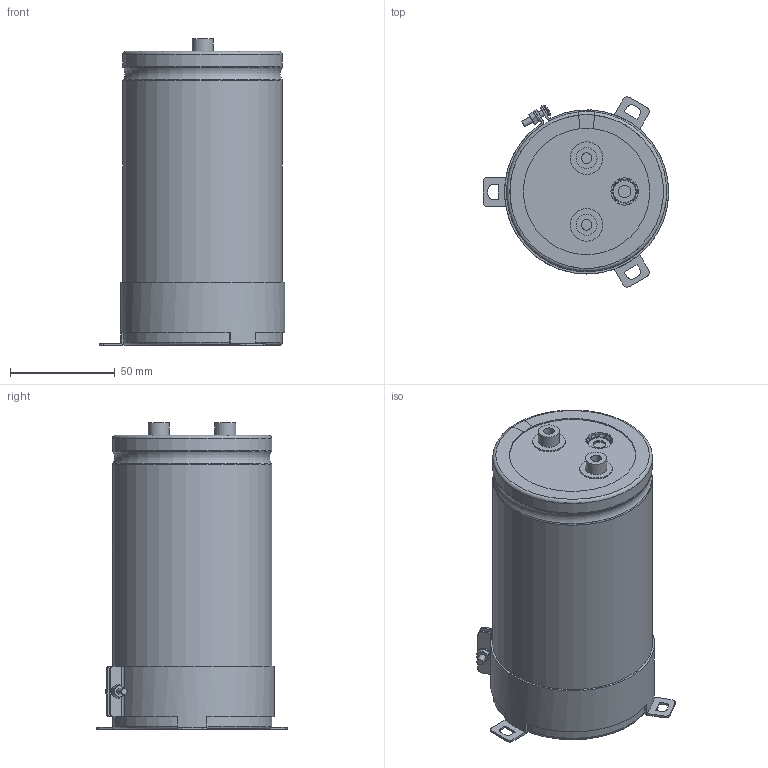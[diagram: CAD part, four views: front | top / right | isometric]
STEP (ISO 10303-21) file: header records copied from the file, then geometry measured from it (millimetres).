
FILE_DESCRIPTION(/* description */ (''),/* implementation_level */ '2;1');
FILE_NAME(/* name */ '76.2x140_Screw.stp',/* time_stamp */ '2017-09-17T13:30:40+09:00',/* author */ (''),/* organization */ (''),/* preprocessor_version */ 'ST-DEVELOPER v16',/* originating_system */ 'SIEMENS PLM Software NX 11.0',/* authorisation */ '');
FILE_SCHEMA (('AUTOMOTIVE_DESIGN { 1 0 10303 214 3 1 1 1 }'));
Length unit declared in the file: millimetre
Products named in the file (1): 76.2x140_Screw
Bounding box: 88.3 x 90.75 x 146 mm (x, y, z)
Volume: 640838 mm3; surface area: 130524.2 mm2
Topology: 9 solids, 9 shells, 259 faces, 642 edges, 413 vertices
Faces by surface type: plane 112, cylinder 66, torus 49, cone 31, sphere 1
Full cylindrical faces by diameter (mm): 3 x5, 5 x2, 5.5 x2, 6 x4, 8 x1, 10 x2, 13 x2, 15.5 x2, 75 x2
Entity records: 8534 total; most frequent: CARTESIAN_POINT 2182, DIRECTION 1296, ORIENTED_EDGE 1214, EDGE_CURVE 607, AXIS2_PLACEMENT_3D 541, VERTEX_POINT 408, EDGE_LOOP 317, CIRCLE 281
